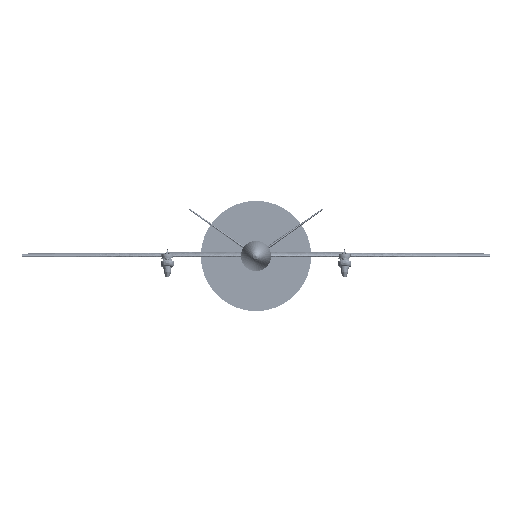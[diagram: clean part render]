
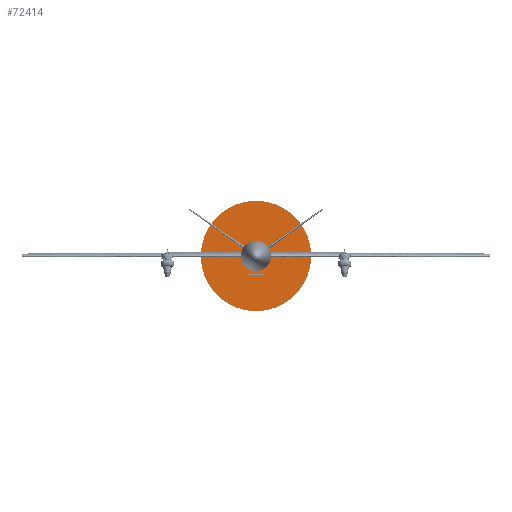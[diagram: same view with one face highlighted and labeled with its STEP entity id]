
A CAD part, left-side view. The second image highlights one B-rep face of the part: STEP entity #72414.
In plain terms, the highlighted planar face has unit normal (-1, 0, 0).
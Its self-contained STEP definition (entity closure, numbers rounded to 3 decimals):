
#72331 = VERTEX_POINT('',#72332);
#72332 = CARTESIAN_POINT('',(1146.,165.1,0.));
#72341 = CYLINDRICAL_SURFACE('',#72342,165.1);
#72342 = AXIS2_PLACEMENT_3D('',#72343,#72344,#72345);
#72343 = CARTESIAN_POINT('',(1146.,0.,0.));
#72344 = DIRECTION('',(-1.,-0.,-0.));
#72345 = DIRECTION('',(0.,1.,0.));
#72388 = EDGE_CURVE('',#72331,#72331,#72389,.T.);
#72389 = SURFACE_CURVE('',#72390,(#72395,#72402),.PCURVE_S1.);
#72390 = CIRCLE('',#72391,165.1);
#72391 = AXIS2_PLACEMENT_3D('',#72392,#72393,#72394);
#72392 = CARTESIAN_POINT('',(1146.,0.,0.));
#72393 = DIRECTION('',(1.,0.,0.));
#72394 = DIRECTION('',(-0.,1.,0.));
#72395 = PCURVE('',#72341,#72396);
#72396 = DEFINITIONAL_REPRESENTATION('',(#72397),#72401);
#72397 = LINE('',#72398,#72399);
#72398 = CARTESIAN_POINT('',(-0.,0.));
#72399 = VECTOR('',#72400,1.);
#72400 = DIRECTION('',(-1.,0.));
#72401 = ( GEOMETRIC_REPRESENTATION_CONTEXT(2) 
PARAMETRIC_REPRESENTATION_CONTEXT() REPRESENTATION_CONTEXT('2D SPACE',''
  ) );
#72402 = PCURVE('',#72403,#72408);
#72403 = PLANE('',#72404);
#72404 = AXIS2_PLACEMENT_3D('',#72405,#72406,#72407);
#72405 = CARTESIAN_POINT('',(1146.,0.,
    0.));
#72406 = DIRECTION('',(1.,0.,0.));
#72407 = DIRECTION('',(-0.,0.,1.));
#72408 = DEFINITIONAL_REPRESENTATION('',(#72409),#72413);
#72409 = CIRCLE('',#72410,165.1);
#72410 = AXIS2_PLACEMENT_2D('',#72411,#72412);
#72411 = CARTESIAN_POINT('',(0.,0.));
#72412 = DIRECTION('',(0.,-1.));
#72413 = ( GEOMETRIC_REPRESENTATION_CONTEXT(2) 
PARAMETRIC_REPRESENTATION_CONTEXT() REPRESENTATION_CONTEXT('2D SPACE',''
  ) );
#72414 = ADVANCED_FACE('',(#72415),#72403,.F.);
#72415 = FACE_BOUND('',#72416,.F.);
#72416 = EDGE_LOOP('',(#72417));
#72417 = ORIENTED_EDGE('',*,*,#72388,.T.);
